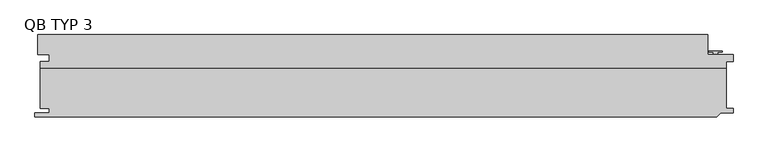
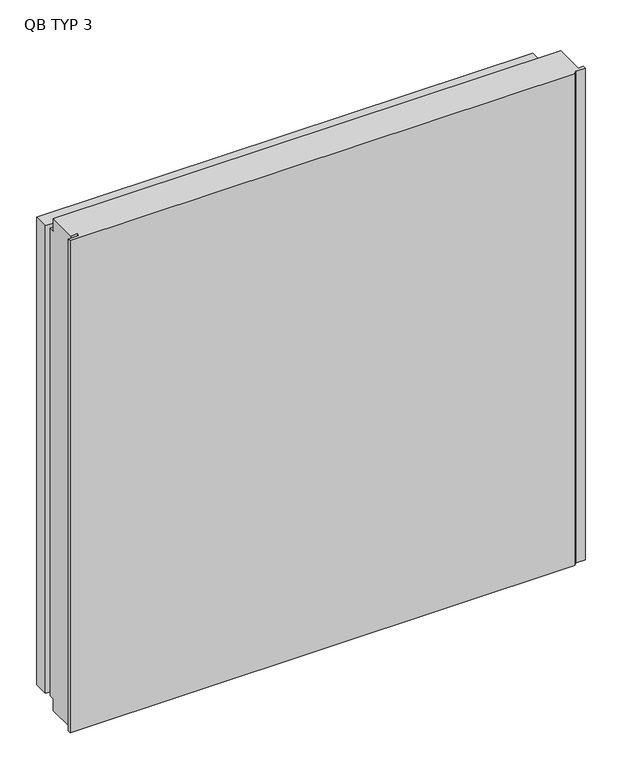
"""IFC4 building model written with IfcOpenShell, lengths in millimetres: plate geometry, TR_C_V_QBISS_Panel : QB TYP 3."""

from ifc_helpers import new_model, si_unit, frame, origin, place, context, project, spatial, polyline, outline, extrude, faceted_brep, source, transform, mapped, element, save


def qb_typ_3_856d2326(model_context):
    return source(origin(), model_context, "Body", "SolidModel", [
        faceted_brep([(-500.0, -108.0, 1012.4), (-487.0, -108.0, 1012.4), (-487.0, -114.0, 1012.4), (-508.0, -114.0, 1012.4), (-508.0, -120.0, 1012.4), (486.0, -120.0, 1012.4), (492.0, -114.0, 1012.4), (510.0, -114.0, 1012.4), (510.0, -108.0, 1012.4), (500.0, -108.0, 1012.4), (500.0, -49.0, 1012.4), (-500.0, -49.0, 1012.4), (500.0, -108.0, -12.4), (510.0, -108.0, -12.4), (510.0, -114.0, -12.4), (492.0, -114.0, -12.4), (486.0, -120.0, -12.4), (-508.0, -120.0, -12.4), (-508.0, -114.0, -12.4), (-487.0, -114.0, -12.4), (-487.0, -108.0, -12.4), (-500.0, -108.0, -12.4), (-500.0, -49.0, -12.4), (500.0, -49.0, -12.4), (-500.0, -49.0, 12.7), (500.0, -49.0, 12.7), (-500.0, -39.0, 12.7), (-487.0, -39.0, 12.7), (-487.0, -29.0, 12.7), (-504.0, -29.0, 12.7), (-504.0, 0.0, 12.7), (473.0, 0.0, 12.7), (473.0, -29.0, 12.7), (510.0, -29.0, 12.7), (510.0, -39.0, 12.7), (500.0, -39.0, 12.7), (500.0, -39.0, 987.3), (500.0, -49.0, 987.3), (510.0, -39.0, 987.3), (510.0, -29.0, 987.3), (473.0, -29.0, 987.3), (473.0, 0.0, 987.3), (-504.0, 0.0, 987.3), (-504.0, -29.0, 987.3), (-487.0, -29.0, 987.3), (-487.0, -39.0, 987.3), (-500.0, -39.0, 987.3), (-500.0, -49.0, 987.3)], [[[0, 1, 2, 3, 4, 5, 6, 7, 8, 9, 10, 11]], [[12, 13, 14, 15, 16, 17, 18, 19, 20, 21, 22, 23]], [[24, 25, 23, 22]], [[25, 24, 26, 27, 28, 29, 30, 31, 32, 33, 34, 35]], [[1, 0, 21, 20]], [[2, 1, 20, 19]], [[3, 2, 19, 18]], [[4, 3, 18, 17]], [[5, 4, 17, 16]], [[6, 5, 16, 15]], [[7, 6, 15, 14]], [[8, 7, 14, 13]], [[9, 8, 13, 12]], [[9, 12, 23, 25, 35, 36, 37, 10]], [[35, 34, 38, 36]], [[34, 33, 39, 38]], [[33, 32, 40, 39]], [[32, 31, 41, 40]], [[31, 30, 42, 41]], [[30, 29, 43, 42]], [[29, 28, 44, 43]], [[28, 27, 45, 44]], [[27, 26, 46, 45]], [[21, 0, 11, 47, 46, 26, 24, 22]], [[37, 47, 11, 10]], [[47, 37, 36, 38, 39, 40, 41, 42, 43, 44, 45, 46]]]),
        extrude(outline(polyline([(494.5, -24.0), (494.5, -25.4998317), (487.7023593, -25.4998317), (487.7023593, -27.9998293), (488.5023593, -27.9998293), (488.5023593, -28.7998428), (480.5023028, -28.7998428), (480.5023028, -27.9998293), (481.3023028, -27.9998293), (481.3023028, -25.4998317), (474.5, -25.4998317), (474.5, -24.0), (494.5, -24.0)])), frame((0.0, 0.0, 12.5), z_axis=(0.0, 0.0, 1.0), x_axis=(1.0, 0.0, 0.0)), (0.0, 0.0, 1.0), 975.0),
    ])


if __name__ == "__main__":
    model = new_model("IFC4")
    model_context = context("Model", 3, world=origin())
    ifc_project = project(units=[si_unit("LENGTHUNIT", "METRE", prefix="MILLI")], contexts=[model_context])
    site = spatial("IfcSite", under=ifc_project)
    building = spatial("IfcBuilding", under=site)
    placement = place(None, origin())
    qb_typ_3_shape = qb_typ_3_856d2326(model_context)
    element("IfcPlate", 1, ObjectType="TR_C_V_QBISS_Panel : QB TYP 3", at=placement, inside=building, context=model_context, shape_type="MappedRepresentation", body=[
        mapped(qb_typ_3_shape, transform((0.0, 0.0, 0.0), x_axis=(1.0, 0.0, 0.0), y_axis=(0.0, 1.0, 0.0), z_axis=(0.0, 0.0, 1.0))),
    ])
    save(model, "model.ifc")
